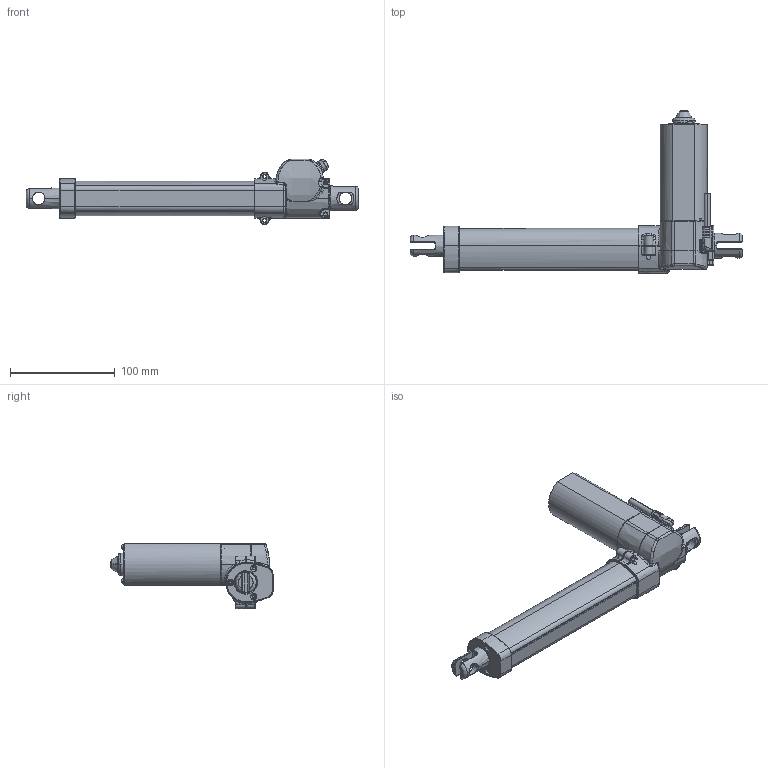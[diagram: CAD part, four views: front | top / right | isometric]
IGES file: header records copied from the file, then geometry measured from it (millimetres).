
Start section: SolidWorks IGES file using analytic representation for surfaces
Bounding box: 316.5 x 154.5 x 62.3 mm (x, y, z)
Surface area: 169717.6 mm2 (no closed solid volume)
Topology: 0 solids, 0 shells, 1984 faces, 17601 edges, 17452 vertices
Faces by surface type: bspline 1001, revolution 983
